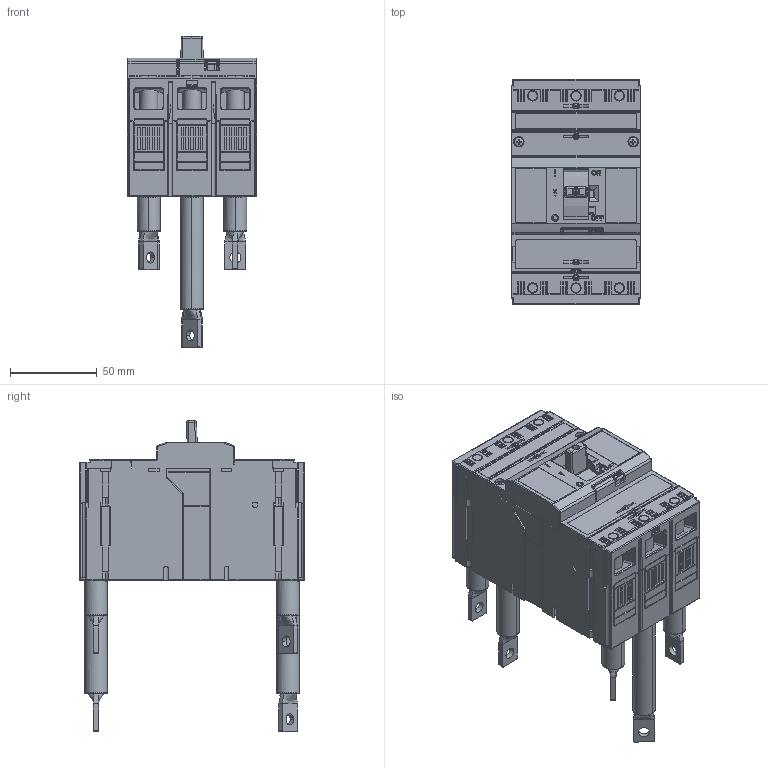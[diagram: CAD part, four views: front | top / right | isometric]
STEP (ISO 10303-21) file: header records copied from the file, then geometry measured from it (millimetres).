
FILE_DESCRIPTION (( 'STEP AP214' ), '1' );
FILE_NAME ('BC160NT305__CS-BC-A021_finalni.step', '2013-05-10T10:21:43', ( '' ), ( '' ), 'SwSTEP 2.0', 'SolidWorks 2011', '' );
FILE_SCHEMA (( 'AUTOMOTIVE_DESIGN' ));
Length unit declared in the file: millimetre
Products named in the file (1): BC160NT305__CS-BC-A021_finalni
Bounding box: 75 x 130 x 179.7 mm (x, y, z)
Volume: 654273.9 mm3; surface area: 129282.3 mm2
Topology: 9 solids, 9 shells, 3547 faces, 9588 edges, 6096 vertices
Faces by surface type: plane 2066, cylinder 1114, bspline 349, cone 18
Entity records: 158289 total; most frequent: CARTESIAN_POINT 32487, ORIENTED_EDGE 19094, DIRECTION 16723, EDGE_CURVE 9547, LINE 6709, VECTOR 6709, VERTEX_POINT 6096, AXIS2_PLACEMENT_3D 5007
